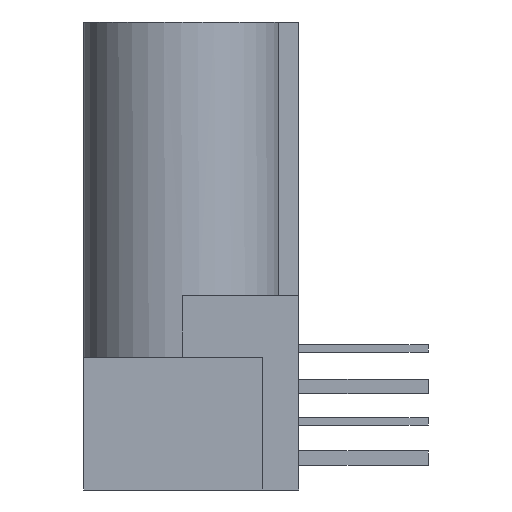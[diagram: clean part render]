
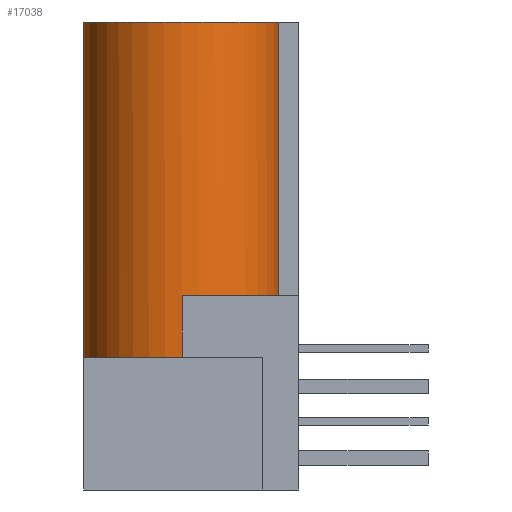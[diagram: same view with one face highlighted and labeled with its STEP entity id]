
A CAD part, left-side view. The second image highlights one B-rep face of the part: STEP entity #17038.
In plain terms, the highlighted cylindrical face has radius 3.43 mm (diameter 6.86 mm), a partial arc.
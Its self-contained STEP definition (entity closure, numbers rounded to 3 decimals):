
#2081=CARTESIAN_POINT('',(-32.94,-0.04,-1.39));
#2082=DIRECTION('',(0.,0.,-1.));
#2083=DIRECTION('',(-0.201,-0.98,0.));
#2084=AXIS2_PLACEMENT_3D('',#2081,#2082,#2083);
#2099=DIRECTION('',(0.,0.,1.));
#2100=VECTOR('',#2099,2.13);
#2101=CARTESIAN_POINT('',(-36.37,-0.04,-3.52));
#2102=LINE('',#2101,#2100);
#2119=DIRECTION('',(0.,0.,1.));
#2120=VECTOR('',#2119,11.67);
#2121=CARTESIAN_POINT('',(-32.94,3.39,-3.52));
#2122=LINE('',#2121,#2120);
#2123=DIRECTION('',(0.,0.,-1.));
#2124=VECTOR('',#2123,9.54);
#2125=CARTESIAN_POINT('',(-33.629,-3.4,8.15));
#2126=LINE('',#2125,#2124);
#2136=CARTESIAN_POINT('',(-32.94,-0.04,-3.52));
#2137=DIRECTION('',(0.,0.,1.));
#2138=DIRECTION('',(0.,1.,0.));
#2139=AXIS2_PLACEMENT_3D('',#2136,#2137,#2138);
#2275=CARTESIAN_POINT('',(-32.94,-0.04,8.15));
#2276=DIRECTION('',(0.,0.,-1.));
#2277=DIRECTION('',(-0.201,-0.98,0.));
#2278=AXIS2_PLACEMENT_3D('',#2275,#2276,#2277);
#11205=CARTESIAN_POINT('',(-33.629,-3.4,8.15));
#11206=CARTESIAN_POINT('',(-32.94,3.39,8.15));
#11207=VERTEX_POINT('',#11205);
#11208=VERTEX_POINT('',#11206);
#11215=CARTESIAN_POINT('',(-33.629,-3.4,-1.39));
#11216=VERTEX_POINT('',#11215);
#11225=CARTESIAN_POINT('',(-36.37,-0.04,-3.52));
#11226=CARTESIAN_POINT('',(-36.37,-0.04,-1.39));
#11227=VERTEX_POINT('',#11225);
#11228=VERTEX_POINT('',#11226);
#11239=CARTESIAN_POINT('',(-32.94,3.39,-3.52));
#11240=VERTEX_POINT('',#11239);
#17021=CARTESIAN_POINT('',(-32.94,-0.04,8.15));
#17022=DIRECTION('',(0.,0.,1.));
#17023=DIRECTION('',(1.,0.,0.));
#17024=AXIS2_PLACEMENT_3D('',#17021,#17022,#17023);
#17025=CYLINDRICAL_SURFACE('',#17024,3.43);
#17026=ORIENTED_EDGE('',*,*,#16980,.T.);
#17027=ORIENTED_EDGE('',*,*,#17008,.F.);
#17029=ORIENTED_EDGE('',*,*,#17028,.F.);
#17031=ORIENTED_EDGE('',*,*,#17030,.T.);
#17033=ORIENTED_EDGE('',*,*,#17032,.F.);
#17035=ORIENTED_EDGE('',*,*,#17034,.T.);
#17036=EDGE_LOOP('',(#17026,#17027,#17029,#17031,#17033,#17035));
#17037=FACE_OUTER_BOUND('',#17036,.F.);
#17038=ADVANCED_FACE('',(#17037),#17025,.T.);
#2085=CIRCLE('',#2084,3.43);
#2140=CIRCLE('',#2139,3.43);
#2279=CIRCLE('',#2278,3.43);
#16980=EDGE_CURVE('',#11216,#11228,#2085,.T.);
#17008=EDGE_CURVE('',#11227,#11228,#2102,.T.);
#17028=EDGE_CURVE('',#11240,#11227,#2140,.T.);
#17030=EDGE_CURVE('',#11240,#11208,#2122,.T.);
#17032=EDGE_CURVE('',#11207,#11208,#2279,.T.);
#17034=EDGE_CURVE('',#11207,#11216,#2126,.T.);
